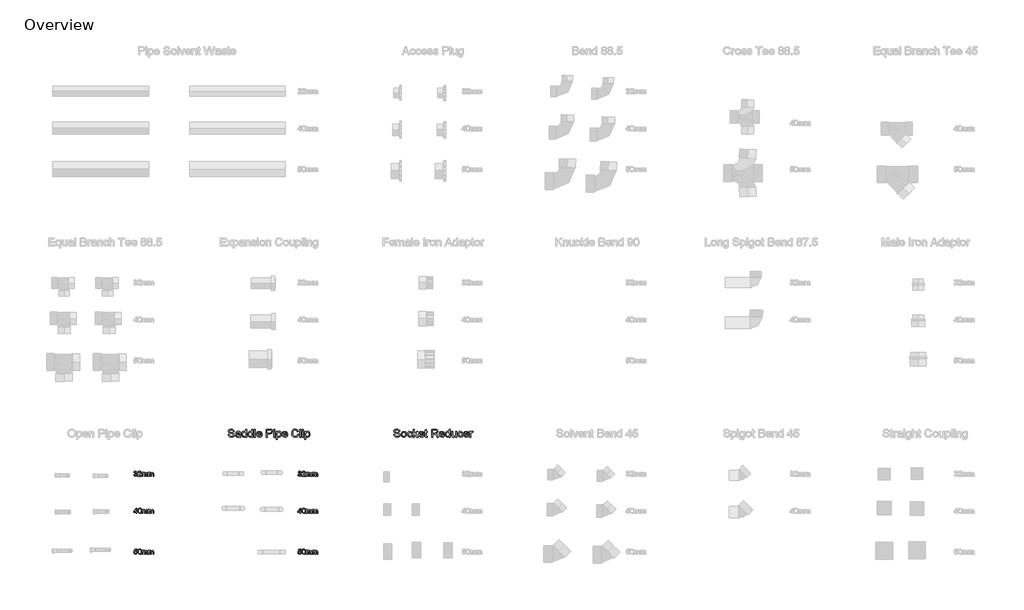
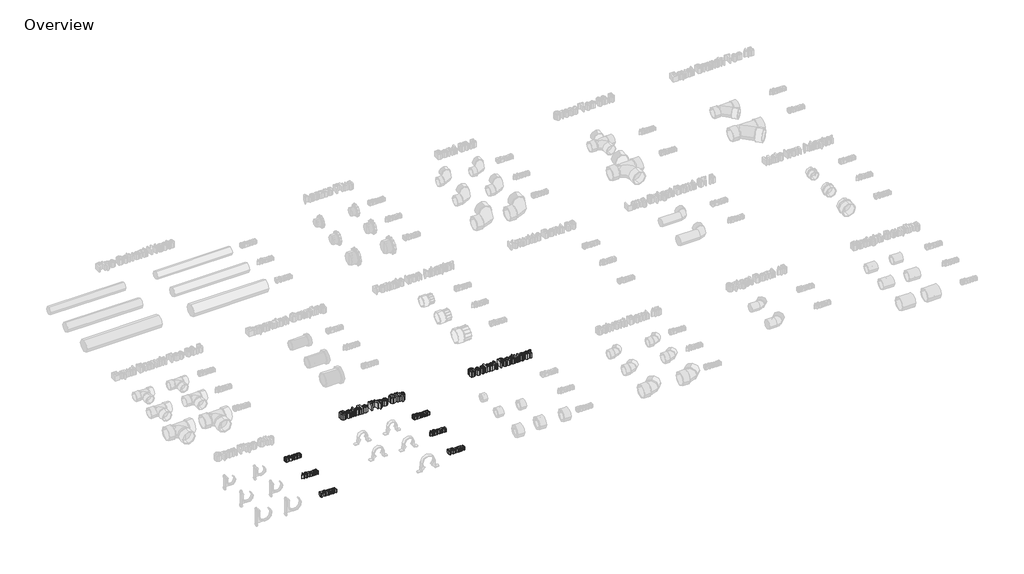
# One storey, part 2 of 10: 8 proxies.
"""IFC4 building model written with IfcOpenShell, lengths in millimetres."""

from ifc_helpers import new_model, si_unit, origin, origin_with_axes, place, context, project, spatial, polyline, outline, extrude, element, save

model = new_model("IFC4")

# Units and contexts
model_context = context("Model", 3, world=origin())
ifc_project = project(units=[si_unit("LENGTHUNIT", "METRE", prefix="MILLI")], contexts=[model_context])

# Site, building, storey
site = spatial("IfcSite", under=ifc_project)
building = spatial("IfcBuilding", under=site)
storey = spatial("IfcBuildingStorey", under=building, Name="Overview", Elevation=0.0)

# Proxies
placement = place(None, origin())
element("IfcBuildingElementProxy", 1, Name="20mm Arial", ObjectType="20mm Arial", at=placement, inside=storey, context=model_context, shape_type="SweptSolid", body=[
    extrude(outline(polyline([(-2898.2349117, 3721.4652453), (-2895.7733732, 3721.7729376), (-2894.4152001, 3719.1815914), (-2891.8743347, 3718.3883222), (-2888.8839501, 3719.4796684), (-2887.7733732, 3722.1815914), (-2888.8743347, 3724.7272645), (-2891.6724117, 3725.7344761), (-2893.3983732, 3725.4652453), (-2893.1243347, 3727.9267837), (-2889.9368347, 3728.6046684), (-2888.6964501, 3730.7777453), (-2889.5954886, 3732.7032261), (-2891.9127963, 3733.4652453), (-2894.2589501, 3732.6960145), (-2895.4656809, 3730.3883222), (-2897.9272194, 3730.6960145), (-2895.9127963, 3734.5565914), (-2891.9993347, 3735.9267837), (-2889.0305847, 3735.251303), (-2886.9536617, 3733.4051491), (-2886.2349117, 3730.9219761), (-2886.917604, 3728.6527453), (-2888.9368347, 3727.0229376), (-2886.2541424, 3725.3402453), (-2885.3118347, 3722.1383222), (-2887.1964501, 3717.7344761), (-2891.9608732, 3715.9267837), (-2896.2781809, 3717.470053), (-2898.2349117, 3721.4652453)])), origin_with_axes(), (0.0, 0.0, 1.0), 15.0),
    extrude(outline(polyline([(-2870.542604, 3718.6960145), (-2870.542604, 3716.2344761), (-2883.4656809, 3716.2344761), (-2883.2012578, 3717.9315914), (-2881.7060655, 3720.5445722), (-2878.6243347, 3723.3979376), (-2874.3743347, 3727.4988991), (-2873.3118347, 3730.2873607), (-2874.3142386, 3732.5445722), (-2876.9320271, 3733.4652453), (-2879.6603924, 3732.5662068), (-2880.6964501, 3730.0806299), (-2883.1579886, 3730.3883222), (-2881.2709694, 3734.5085145), (-2876.8791424, 3735.9267837), (-2872.4728924, 3734.3498607), (-2870.8502963, 3730.4363991), (-2871.2877963, 3728.1022645), (-2872.7421232, 3725.688803), (-2876.2685655, 3722.3162068), (-2879.1002963, 3719.9484184), (-2880.2108732, 3718.6960145), (-2870.542604, 3718.6960145)])), origin_with_axes(), (0.0, 0.0, 1.0), 15.0),
    extrude(outline(polyline([(-2867.4656809, 3716.2344761), (-2867.4656809, 3730.6960145), (-2865.0041424, 3730.6960145), (-2865.0041424, 3728.3162068), (-2863.3118347, 3730.2657261), (-2860.9031809, 3731.0037068), (-2858.4368347, 3730.251303), (-2857.0810655, 3728.1431299), (-2852.7349117, 3731.0037068), (-2849.5161617, 3729.813803), (-2848.3887578, 3726.1479376), (-2848.3887578, 3716.2344761), (-2850.8502963, 3716.2344761), (-2850.8502963, 3725.0902453), (-2851.0786617, 3727.1455337), (-2855.7325078, 3727.5565914), (-2856.6964501, 3724.3979376), (-2856.6964501, 3716.2344761), (-2859.1579886, 3716.2344761), (-2859.1579886, 3725.3642837), (-2859.7277001, 3727.7488991), (-2861.5954886, 3728.5421684), (-2863.417604, 3728.0133222), (-2864.6291424, 3726.4652453), (-2865.0041424, 3723.5277453), (-2865.0041424, 3716.2344761), (-2867.4656809, 3716.2344761)])), origin_with_axes(), (0.0, 0.0, 1.0), 15.0),
    extrude(outline(polyline([(-2844.6964501, 3716.2344761), (-2844.6964501, 3730.6960145), (-2842.2349117, 3730.6960145), (-2842.2349117, 3728.3162068), (-2840.542604, 3730.2657261), (-2838.1339501, 3731.0037068), (-2835.667604, 3730.251303), (-2834.3118347, 3728.1431299), (-2829.9656809, 3731.0037068), (-2826.7469309, 3729.813803), (-2825.6195271, 3726.1479376), (-2825.6195271, 3716.2344761), (-2828.0810655, 3716.2344761), (-2828.0810655, 3725.0902453), (-2828.3094309, 3727.1455337), (-2832.9632771, 3727.5565914), (-2833.9272194, 3724.3979376), (-2833.9272194, 3716.2344761), (-2836.3887578, 3716.2344761), (-2836.3887578, 3725.3642837), (-2836.9584694, 3727.7488991), (-2838.8262578, 3728.5421684), (-2840.6483732, 3728.0133222), (-2841.8599117, 3726.4652453), (-2842.2349117, 3723.5277453), (-2842.2349117, 3716.2344761), (-2844.6964501, 3716.2344761)])), origin_with_axes(), (0.0, 0.0, 1.0), 15.0),
])
element("IfcBuildingElementProxy", 2, Name="20mm Arial", ObjectType="20mm Arial", at=placement, inside=storey, context=model_context, shape_type="SweptSolid", body=[
    extrude(outline(polyline([(-2890.2349117, 3580.5685355), (-2890.2349117, 3585.1839201), (-2899.1579886, 3585.1839201), (-2899.1579886, 3587.6454586), (-2889.6195271, 3599.9531509), (-2887.7733732, 3599.9531509), (-2887.7733732, 3587.6454586), (-2885.3118347, 3587.6454586), (-2885.3118347, 3585.1839201), (-2887.7733732, 3585.1839201), (-2887.7733732, 3580.5685355), (-2890.2349117, 3580.5685355)]), holes=[polyline([(-2890.2349117, 3587.6454586), (-2890.2349117, 3595.2512278), (-2896.1291424, 3587.6454586), (-2890.2349117, 3587.6454586)])]), origin_with_axes(), (0.0, 0.0, 1.0), 15.0),
    extrude(outline(polyline([(-2883.1579886, 3590.2560355), (-2882.4344309, 3595.9219009), (-2880.2853924, 3599.1887278), (-2876.6964501, 3600.2608432), (-2873.8214501, 3599.6262278), (-2871.8358732, 3597.7969009), (-2870.6820271, 3594.8834393), (-2870.2349117, 3590.2560355), (-2870.9512578, 3584.6142086), (-2873.0930847, 3581.3401701), (-2876.6964501, 3580.2608432), (-2881.1964501, 3582.1358432), (-2883.1579886, 3590.2560355)]), holes=[polyline([(-2880.6964501, 3590.2608432), (-2879.542604, 3584.1478624), (-2876.6964501, 3582.7223816), (-2873.8502963, 3584.1526701), (-2872.6964501, 3590.2608432), (-2873.8118347, 3596.3041124), (-2876.7252963, 3597.7993047), (-2879.5041424, 3596.481997), (-2880.6964501, 3590.2608432)])]), origin_with_axes(), (0.0, 0.0, 1.0), 15.0),
    extrude(outline(polyline([(-2867.4656809, 3580.5685355), (-2867.4656809, 3595.030074), (-2865.0041424, 3595.030074), (-2865.0041424, 3592.6502663), (-2863.3118347, 3594.5997855), (-2860.9031809, 3595.3377663), (-2858.4368347, 3594.5853624), (-2857.0810655, 3592.4771893), (-2852.7349117, 3595.3377663), (-2849.5161617, 3594.1478624), (-2848.3887578, 3590.481997), (-2848.3887578, 3580.5685355), (-2850.8502963, 3580.5685355), (-2850.8502963, 3589.4243047), (-2851.0786617, 3591.4795932), (-2855.7325078, 3591.8906509), (-2856.6964501, 3588.731997), (-2856.6964501, 3580.5685355), (-2859.1579886, 3580.5685355), (-2859.1579886, 3589.6983432), (-2859.7277001, 3592.0829586), (-2861.5954886, 3592.8762278), (-2863.417604, 3592.3473816), (-2864.6291424, 3590.7993047), (-2865.0041424, 3587.8618047), (-2865.0041424, 3580.5685355), (-2867.4656809, 3580.5685355)])), origin_with_axes(), (0.0, 0.0, 1.0), 15.0),
    extrude(outline(polyline([(-2844.6964501, 3580.5685355), (-2844.6964501, 3595.030074), (-2842.2349117, 3595.030074), (-2842.2349117, 3592.6502663), (-2840.542604, 3594.5997855), (-2838.1339501, 3595.3377663), (-2835.667604, 3594.5853624), (-2834.3118347, 3592.4771893), (-2829.9656809, 3595.3377663), (-2826.7469309, 3594.1478624), (-2825.6195271, 3590.481997), (-2825.6195271, 3580.5685355), (-2828.0810655, 3580.5685355), (-2828.0810655, 3589.4243047), (-2828.3094309, 3591.4795932), (-2832.9632771, 3591.8906509), (-2833.9272194, 3588.731997), (-2833.9272194, 3580.5685355), (-2836.3887578, 3580.5685355), (-2836.3887578, 3589.6983432), (-2836.9584694, 3592.0829586), (-2838.8262578, 3592.8762278), (-2840.6483732, 3592.3473816), (-2841.8599117, 3590.7993047), (-2842.2349117, 3587.8618047), (-2842.2349117, 3580.5685355), (-2844.6964501, 3580.5685355)])), origin_with_axes(), (0.0, 0.0, 1.0), 15.0),
])
element("IfcBuildingElementProxy", 3, Name="20mm Arial", ObjectType="20mm Arial", at=placement, inside=storey, context=model_context, shape_type="SweptSolid", body=[
    extrude(outline(polyline([(-2898.2349117, 3436.1445961), (-2895.7733732, 3436.4522884), (-2894.5329886, 3433.9162307), (-2891.9608732, 3433.067673), (-2888.8743347, 3434.2479615), (-2887.7733732, 3437.380173), (-2888.8046232, 3440.3032499), (-2891.9224117, 3441.3753653), (-2894.0834694, 3440.9474807), (-2895.4656809, 3439.8369038), (-2897.9272194, 3440.1445961), (-2895.7733732, 3450.2984422), (-2886.2349117, 3450.2984422), (-2886.2349117, 3447.8369038), (-2893.7829886, 3447.8369038), (-2894.8358732, 3442.4138269), (-2891.2349117, 3443.8369038), (-2887.0257771, 3442.0724807), (-2885.3118347, 3437.5340192), (-2886.855104, 3432.9667115), (-2891.9704886, 3430.6061346), (-2896.3142386, 3432.1229615), (-2898.2349117, 3436.1445961)])), origin_with_axes(), (0.0, 0.0, 1.0), 15.0),
    extrude(outline(polyline([(-2883.1579886, 3440.6013269), (-2882.4344309, 3446.2671922), (-2880.2853924, 3449.5340192), (-2876.6964501, 3450.6061346), (-2873.8214501, 3449.9715192), (-2871.8358732, 3448.1421922), (-2870.6820271, 3445.2287307), (-2870.2349117, 3440.6013269), (-2870.9512578, 3434.9594999), (-2873.0930847, 3431.6854615), (-2876.6964501, 3430.6061346), (-2881.1964501, 3432.4811346), (-2883.1579886, 3440.6013269)]), holes=[polyline([(-2880.6964501, 3440.6061346), (-2879.542604, 3434.4931538), (-2876.6964501, 3433.067673), (-2873.8502963, 3434.4979615), (-2872.6964501, 3440.6061346), (-2873.8118347, 3446.6494038), (-2876.7252963, 3448.1445961), (-2879.5041424, 3446.8272884), (-2880.6964501, 3440.6061346)])]), origin_with_axes(), (0.0, 0.0, 1.0), 15.0),
    extrude(outline(polyline([(-2867.4656809, 3430.9138269), (-2867.4656809, 3445.3753653), (-2865.0041424, 3445.3753653), (-2865.0041424, 3442.9955576), (-2863.3118347, 3444.9450769), (-2860.9031809, 3445.6830576), (-2858.4368347, 3444.9306538), (-2857.0810655, 3442.8224807), (-2852.7349117, 3445.6830576), (-2849.5161617, 3444.4931538), (-2848.3887578, 3440.8272884), (-2848.3887578, 3430.9138269), (-2850.8502963, 3430.9138269), (-2850.8502963, 3439.7695961), (-2851.0786617, 3441.8248846), (-2855.7325078, 3442.2359422), (-2856.6964501, 3439.0772884), (-2856.6964501, 3430.9138269), (-2859.1579886, 3430.9138269), (-2859.1579886, 3440.0436346), (-2859.7277001, 3442.4282499), (-2861.5954886, 3443.2215192), (-2863.417604, 3442.692673), (-2864.6291424, 3441.1445961), (-2865.0041424, 3438.2070961), (-2865.0041424, 3430.9138269), (-2867.4656809, 3430.9138269)])), origin_with_axes(), (0.0, 0.0, 1.0), 15.0),
    extrude(outline(polyline([(-2844.6964501, 3430.9138269), (-2844.6964501, 3445.3753653), (-2842.2349117, 3445.3753653), (-2842.2349117, 3442.9955576), (-2840.542604, 3444.9450769), (-2838.1339501, 3445.6830576), (-2835.667604, 3444.9306538), (-2834.3118347, 3442.8224807), (-2829.9656809, 3445.6830576), (-2826.7469309, 3444.4931538), (-2825.6195271, 3440.8272884), (-2825.6195271, 3430.9138269), (-2828.0810655, 3430.9138269), (-2828.0810655, 3439.7695961), (-2828.3094309, 3441.8248846), (-2832.9632771, 3442.2359422), (-2833.9272194, 3439.0772884), (-2833.9272194, 3430.9138269), (-2836.3887578, 3430.9138269), (-2836.3887578, 3440.0436346), (-2836.9584694, 3442.4282499), (-2838.8262578, 3443.2215192), (-2840.6483732, 3442.692673), (-2841.8599117, 3441.1445961), (-2842.2349117, 3438.2070961), (-2842.2349117, 3430.9138269), (-2844.6964501, 3430.9138269)])), origin_with_axes(), (0.0, 0.0, 1.0), 15.0),
])
element("IfcBuildingElementProxy", 4, Name="20mm Arial", ObjectType="20mm Arial", at=placement, inside=storey, context=model_context, shape_type="SweptSolid", body=[
    extrude(outline(polyline([(-2298.2349117, 3721.4652453), (-2295.7733732, 3721.7729376), (-2294.4152001, 3719.1815914), (-2291.8743347, 3718.3883222), (-2288.8839501, 3719.4796684), (-2287.7733732, 3722.1815914), (-2288.8743347, 3724.7272645), (-2291.6724117, 3725.7344761), (-2293.3983732, 3725.4652453), (-2293.1243347, 3727.9267837), (-2289.9368347, 3728.6046684), (-2288.6964501, 3730.7777453), (-2289.5954886, 3732.7032261), (-2291.9127963, 3733.4652453), (-2294.2589501, 3732.6960145), (-2295.4656809, 3730.3883222), (-2297.9272194, 3730.6960145), (-2295.9127963, 3734.5565914), (-2291.9993347, 3735.9267837), (-2289.0305847, 3735.251303), (-2286.9536617, 3733.4051491), (-2286.2349117, 3730.9219761), (-2286.917604, 3728.6527453), (-2288.9368347, 3727.0229376), (-2286.2541424, 3725.3402453), (-2285.3118347, 3722.1383222), (-2287.1964501, 3717.7344761), (-2291.9608732, 3715.9267837), (-2296.2781809, 3717.470053), (-2298.2349117, 3721.4652453)])), origin_with_axes(), (0.0, 0.0, 1.0), 15.0),
    extrude(outline(polyline([(-2270.542604, 3718.6960145), (-2270.542604, 3716.2344761), (-2283.4656809, 3716.2344761), (-2283.2012578, 3717.9315914), (-2281.7060655, 3720.5445722), (-2278.6243347, 3723.3979376), (-2274.3743347, 3727.4988991), (-2273.3118347, 3730.2873607), (-2274.3142386, 3732.5445722), (-2276.9320271, 3733.4652453), (-2279.6603924, 3732.5662068), (-2280.6964501, 3730.0806299), (-2283.1579886, 3730.3883222), (-2281.2709694, 3734.5085145), (-2276.8791424, 3735.9267837), (-2272.4728924, 3734.3498607), (-2270.8502963, 3730.4363991), (-2271.2877963, 3728.1022645), (-2272.7421232, 3725.688803), (-2276.2685655, 3722.3162068), (-2279.1002963, 3719.9484184), (-2280.2108732, 3718.6960145), (-2270.542604, 3718.6960145)])), origin_with_axes(), (0.0, 0.0, 1.0), 15.0),
    extrude(outline(polyline([(-2267.4656809, 3716.2344761), (-2267.4656809, 3730.6960145), (-2265.0041424, 3730.6960145), (-2265.0041424, 3728.3162068), (-2263.3118347, 3730.2657261), (-2260.9031809, 3731.0037068), (-2258.4368347, 3730.251303), (-2257.0810655, 3728.1431299), (-2252.7349117, 3731.0037068), (-2249.5161617, 3729.813803), (-2248.3887578, 3726.1479376), (-2248.3887578, 3716.2344761), (-2250.8502963, 3716.2344761), (-2250.8502963, 3725.0902453), (-2251.0786617, 3727.1455337), (-2255.7325078, 3727.5565914), (-2256.6964501, 3724.3979376), (-2256.6964501, 3716.2344761), (-2259.1579886, 3716.2344761), (-2259.1579886, 3725.3642837), (-2259.7277001, 3727.7488991), (-2261.5954886, 3728.5421684), (-2263.417604, 3728.0133222), (-2264.6291424, 3726.4652453), (-2265.0041424, 3723.5277453), (-2265.0041424, 3716.2344761), (-2267.4656809, 3716.2344761)])), origin_with_axes(), (0.0, 0.0, 1.0), 15.0),
    extrude(outline(polyline([(-2244.6964501, 3716.2344761), (-2244.6964501, 3730.6960145), (-2242.2349117, 3730.6960145), (-2242.2349117, 3728.3162068), (-2240.542604, 3730.2657261), (-2238.1339501, 3731.0037068), (-2235.667604, 3730.251303), (-2234.3118347, 3728.1431299), (-2229.9656809, 3731.0037068), (-2226.7469309, 3729.813803), (-2225.6195271, 3726.1479376), (-2225.6195271, 3716.2344761), (-2228.0810655, 3716.2344761), (-2228.0810655, 3725.0902453), (-2228.3094309, 3727.1455337), (-2232.9632771, 3727.5565914), (-2233.9272194, 3724.3979376), (-2233.9272194, 3716.2344761), (-2236.3887578, 3716.2344761), (-2236.3887578, 3725.3642837), (-2236.9584694, 3727.7488991), (-2238.8262578, 3728.5421684), (-2240.6483732, 3728.0133222), (-2241.8599117, 3726.4652453), (-2242.2349117, 3723.5277453), (-2242.2349117, 3716.2344761), (-2244.6964501, 3716.2344761)])), origin_with_axes(), (0.0, 0.0, 1.0), 15.0),
])
element("IfcBuildingElementProxy", 5, Name="20mm Arial", ObjectType="20mm Arial", at=placement, inside=storey, context=model_context, shape_type="SweptSolid", body=[
    extrude(outline(polyline([(-2290.2349117, 3580.5685355), (-2290.2349117, 3585.1839201), (-2299.1579886, 3585.1839201), (-2299.1579886, 3587.6454586), (-2289.6195271, 3599.9531509), (-2287.7733732, 3599.9531509), (-2287.7733732, 3587.6454586), (-2285.3118347, 3587.6454586), (-2285.3118347, 3585.1839201), (-2287.7733732, 3585.1839201), (-2287.7733732, 3580.5685355), (-2290.2349117, 3580.5685355)]), holes=[polyline([(-2290.2349117, 3587.6454586), (-2290.2349117, 3595.2512278), (-2296.1291424, 3587.6454586), (-2290.2349117, 3587.6454586)])]), origin_with_axes(), (0.0, 0.0, 1.0), 15.0),
    extrude(outline(polyline([(-2283.1579886, 3590.2560355), (-2282.4344309, 3595.9219009), (-2280.2853924, 3599.1887278), (-2276.6964501, 3600.2608432), (-2273.8214501, 3599.6262278), (-2271.8358732, 3597.7969009), (-2270.6820271, 3594.8834393), (-2270.2349117, 3590.2560355), (-2270.9512578, 3584.6142086), (-2273.0930847, 3581.3401701), (-2276.6964501, 3580.2608432), (-2281.1964501, 3582.1358432), (-2283.1579886, 3590.2560355)]), holes=[polyline([(-2280.6964501, 3590.2608432), (-2279.542604, 3584.1478624), (-2276.6964501, 3582.7223816), (-2273.8502963, 3584.1526701), (-2272.6964501, 3590.2608432), (-2273.8118347, 3596.3041124), (-2276.7252963, 3597.7993047), (-2279.5041424, 3596.481997), (-2280.6964501, 3590.2608432)])]), origin_with_axes(), (0.0, 0.0, 1.0), 15.0),
    extrude(outline(polyline([(-2267.4656809, 3580.5685355), (-2267.4656809, 3595.030074), (-2265.0041424, 3595.030074), (-2265.0041424, 3592.6502663), (-2263.3118347, 3594.5997855), (-2260.9031809, 3595.3377663), (-2258.4368347, 3594.5853624), (-2257.0810655, 3592.4771893), (-2252.7349117, 3595.3377663), (-2249.5161617, 3594.1478624), (-2248.3887578, 3590.481997), (-2248.3887578, 3580.5685355), (-2250.8502963, 3580.5685355), (-2250.8502963, 3589.4243047), (-2251.0786617, 3591.4795932), (-2255.7325078, 3591.8906509), (-2256.6964501, 3588.731997), (-2256.6964501, 3580.5685355), (-2259.1579886, 3580.5685355), (-2259.1579886, 3589.6983432), (-2259.7277001, 3592.0829586), (-2261.5954886, 3592.8762278), (-2263.417604, 3592.3473816), (-2264.6291424, 3590.7993047), (-2265.0041424, 3587.8618047), (-2265.0041424, 3580.5685355), (-2267.4656809, 3580.5685355)])), origin_with_axes(), (0.0, 0.0, 1.0), 15.0),
    extrude(outline(polyline([(-2244.6964501, 3580.5685355), (-2244.6964501, 3595.030074), (-2242.2349117, 3595.030074), (-2242.2349117, 3592.6502663), (-2240.542604, 3594.5997855), (-2238.1339501, 3595.3377663), (-2235.667604, 3594.5853624), (-2234.3118347, 3592.4771893), (-2229.9656809, 3595.3377663), (-2226.7469309, 3594.1478624), (-2225.6195271, 3590.481997), (-2225.6195271, 3580.5685355), (-2228.0810655, 3580.5685355), (-2228.0810655, 3589.4243047), (-2228.3094309, 3591.4795932), (-2232.9632771, 3591.8906509), (-2233.9272194, 3588.731997), (-2233.9272194, 3580.5685355), (-2236.3887578, 3580.5685355), (-2236.3887578, 3589.6983432), (-2236.9584694, 3592.0829586), (-2238.8262578, 3592.8762278), (-2240.6483732, 3592.3473816), (-2241.8599117, 3590.7993047), (-2242.2349117, 3587.8618047), (-2242.2349117, 3580.5685355), (-2244.6964501, 3580.5685355)])), origin_with_axes(), (0.0, 0.0, 1.0), 15.0),
])
element("IfcBuildingElementProxy", 6, Name="20mm Arial", ObjectType="20mm Arial", at=placement, inside=storey, context=model_context, shape_type="SweptSolid", body=[
    extrude(outline(polyline([(-2298.2349117, 3436.1445961), (-2295.7733732, 3436.4522884), (-2294.5329886, 3433.9162307), (-2291.9608732, 3433.067673), (-2288.8743347, 3434.2479615), (-2287.7733732, 3437.380173), (-2288.8046232, 3440.3032499), (-2291.9224117, 3441.3753653), (-2294.0834694, 3440.9474807), (-2295.4656809, 3439.8369038), (-2297.9272194, 3440.1445961), (-2295.7733732, 3450.2984422), (-2286.2349117, 3450.2984422), (-2286.2349117, 3447.8369038), (-2293.7829886, 3447.8369038), (-2294.8358732, 3442.4138269), (-2291.2349117, 3443.8369038), (-2287.0257771, 3442.0724807), (-2285.3118347, 3437.5340192), (-2286.855104, 3432.9667115), (-2291.9704886, 3430.6061346), (-2296.3142386, 3432.1229615), (-2298.2349117, 3436.1445961)])), origin_with_axes(), (0.0, 0.0, 1.0), 15.0),
    extrude(outline(polyline([(-2283.1579886, 3440.6013269), (-2282.4344309, 3446.2671922), (-2280.2853924, 3449.5340192), (-2276.6964501, 3450.6061346), (-2273.8214501, 3449.9715192), (-2271.8358732, 3448.1421922), (-2270.6820271, 3445.2287307), (-2270.2349117, 3440.6013269), (-2270.9512578, 3434.9594999), (-2273.0930847, 3431.6854615), (-2276.6964501, 3430.6061346), (-2281.1964501, 3432.4811346), (-2283.1579886, 3440.6013269)]), holes=[polyline([(-2280.6964501, 3440.6061346), (-2279.542604, 3434.4931538), (-2276.6964501, 3433.067673), (-2273.8502963, 3434.4979615), (-2272.6964501, 3440.6061346), (-2273.8118347, 3446.6494038), (-2276.7252963, 3448.1445961), (-2279.5041424, 3446.8272884), (-2280.6964501, 3440.6061346)])]), origin_with_axes(), (0.0, 0.0, 1.0), 15.0),
    extrude(outline(polyline([(-2267.4656809, 3430.9138269), (-2267.4656809, 3445.3753653), (-2265.0041424, 3445.3753653), (-2265.0041424, 3442.9955576), (-2263.3118347, 3444.9450769), (-2260.9031809, 3445.6830576), (-2258.4368347, 3444.9306538), (-2257.0810655, 3442.8224807), (-2252.7349117, 3445.6830576), (-2249.5161617, 3444.4931538), (-2248.3887578, 3440.8272884), (-2248.3887578, 3430.9138269), (-2250.8502963, 3430.9138269), (-2250.8502963, 3439.7695961), (-2251.0786617, 3441.8248846), (-2255.7325078, 3442.2359422), (-2256.6964501, 3439.0772884), (-2256.6964501, 3430.9138269), (-2259.1579886, 3430.9138269), (-2259.1579886, 3440.0436346), (-2259.7277001, 3442.4282499), (-2261.5954886, 3443.2215192), (-2263.417604, 3442.692673), (-2264.6291424, 3441.1445961), (-2265.0041424, 3438.2070961), (-2265.0041424, 3430.9138269), (-2267.4656809, 3430.9138269)])), origin_with_axes(), (0.0, 0.0, 1.0), 15.0),
    extrude(outline(polyline([(-2244.6964501, 3430.9138269), (-2244.6964501, 3445.3753653), (-2242.2349117, 3445.3753653), (-2242.2349117, 3442.9955576), (-2240.542604, 3444.9450769), (-2238.1339501, 3445.6830576), (-2235.667604, 3444.9306538), (-2234.3118347, 3442.8224807), (-2229.9656809, 3445.6830576), (-2226.7469309, 3444.4931538), (-2225.6195271, 3440.8272884), (-2225.6195271, 3430.9138269), (-2228.0810655, 3430.9138269), (-2228.0810655, 3439.7695961), (-2228.3094309, 3441.8248846), (-2232.9632771, 3442.2359422), (-2233.9272194, 3439.0772884), (-2233.9272194, 3430.9138269), (-2236.3887578, 3430.9138269), (-2236.3887578, 3440.0436346), (-2236.9584694, 3442.4282499), (-2238.8262578, 3443.2215192), (-2240.6483732, 3442.692673), (-2241.8599117, 3441.1445961), (-2242.2349117, 3438.2070961), (-2242.2349117, 3430.9138269), (-2244.6964501, 3430.9138269)])), origin_with_axes(), (0.0, 0.0, 1.0), 15.0),
])
element("IfcBuildingElementProxy", 7, Name="600mm Arial", ObjectType="600mm Arial", at=placement, inside=storey, context=model_context, shape_type="SweptSolid", body=[
    extrude(outline(polyline([(-2553.2231242, 3869.7251615), (-2549.5308165, 3869.7251615), (-2548.3409126, 3866.0292481), (-2545.4346626, 3863.6927096), (-2541.006778, 3862.8020846), (-2537.1486049, 3863.4763635), (-2534.6570184, 3865.3297288), (-2533.8385088, 3867.8068923), (-2534.4514896, 3870.1109788), (-2536.9611049, 3871.7876615), (-2542.3373069, 3873.1975173), (-2548.1245665, 3875.0184308), (-2551.2651915, 3877.7660269), (-2552.3000472, 3881.4367), (-2551.0199992, 3885.6157865), (-2547.2808165, 3888.5653058), (-2541.8072588, 3889.5713154), (-2535.9659126, 3888.5184308), (-2532.0716819, 3885.4246808), (-2530.6077396, 3880.8020846), (-2534.3000472, 3880.8020846), (-2536.3913934, 3884.5953538), (-2541.663028, 3885.8790077), (-2546.9490857, 3884.6097769), (-2548.6077396, 3881.5448731), (-2547.4322588, 3878.9847769), (-2541.4034126, 3876.9222769), (-2534.8697588, 3875.0689115), (-2531.2964415, 3872.0761231), (-2530.1462011, 3867.9006423), (-2531.4695184, 3863.483575), (-2535.2772107, 3860.2600173), (-2540.8625472, 3859.1097769), (-2547.4574992, 3860.3501615), (-2551.6293742, 3864.0857385), (-2553.2231242, 3869.7251615)])), origin_with_axes(), (0.0, 0.0, 1.0), 25.0),
    extrude(outline(polyline([(-2511.2231242, 3862.3405462), (-2514.803653, 3859.8381423), (-2518.7591819, 3859.1097769), (-2524.1209607, 3860.8621808), (-2525.9923549, 3865.3405462), (-2525.2856242, 3868.2612192), (-2523.428653, 3870.3814115), (-2520.8433165, 3871.59295), (-2517.6486049, 3872.1482385), (-2511.2447588, 3873.4174692), (-2512.2399511, 3876.9655462), (-2516.3216819, 3878.0328538), (-2520.0572588, 3877.3225173), (-2521.8385088, 3874.8020846), (-2525.5308165, 3875.2636231), (-2523.9334607, 3878.8693923), (-2520.7171146, 3880.9823731), (-2515.8457203, 3881.7251615), (-2511.3709607, 3881.0689115), (-2508.8433165, 3879.421075), (-2507.7111049, 3876.9150654), (-2507.5308165, 3873.6842962), (-2507.5308165, 3869.0905462), (-2507.3433165, 3862.6758827), (-2506.6077396, 3859.5713154), (-2510.3000472, 3859.5713154), (-2511.2231242, 3862.3405462)]), holes=[polyline([(-2511.2339415, 3869.202325), (-2517.1798549, 3868.59295), (-2520.3565376, 3867.9943923), (-2521.7952396, 3867.0208346), (-2521.2002876, 3863.6025654), (-2517.9731242, 3862.8020846), (-2514.2375472, 3863.6854981), (-2511.8288934, 3865.8237192), (-2511.2339415, 3869.202325)])]), origin_with_axes(), (0.0, 0.0, 1.0), 25.0),
    extrude(outline(polyline([(-2489.069278, 3859.5713154), (-2489.069278, 3863.0544885), (-2494.8889896, 3859.1097769), (-2499.4611049, 3860.5376615), (-2502.6918742, 3864.5220365), (-2503.8385088, 3870.3958346), (-2502.7820184, 3876.2732385), (-2499.616153, 3880.3189115), (-2494.9034126, 3881.7251615), (-2491.4995665, 3880.7191519), (-2489.069278, 3878.1049692), (-2489.069278, 3889.1097769), (-2485.3769703, 3889.1097769), (-2485.3769703, 3859.5713154), (-2489.069278, 3859.5713154)]), holes=[polyline([(-2500.1462011, 3870.4102577), (-2498.4803357, 3864.6951135), (-2494.5500472, 3862.8020846), (-2490.6666338, 3864.608575), (-2489.069278, 3870.1290077), (-2490.6954799, 3876.1217962), (-2494.7014896, 3878.0328538), (-2498.5885088, 3876.1975173), (-2500.1462011, 3870.4102577)])]), origin_with_axes(), (0.0, 0.0, 1.0), 25.0),
    extrude(outline(polyline([(-2466.4538934, 3859.5713154), (-2466.4538934, 3863.0544885), (-2472.2736049, 3859.1097769), (-2476.8457203, 3860.5376615), (-2480.0764896, 3864.5220365), (-2481.2231242, 3870.3958346), (-2480.1666338, 3876.2732385), (-2477.0007684, 3880.3189115), (-2472.288028, 3881.7251615), (-2468.8841819, 3880.7191519), (-2466.4538934, 3878.1049692), (-2466.4538934, 3889.1097769), (-2462.7615857, 3889.1097769), (-2462.7615857, 3859.5713154), (-2466.4538934, 3859.5713154)]), holes=[polyline([(-2477.5308165, 3870.4102577), (-2475.8649511, 3864.6951135), (-2471.9346626, 3862.8020846), (-2468.0512492, 3864.608575), (-2466.4538934, 3870.1290077), (-2468.0800953, 3876.1217962), (-2472.0861049, 3878.0328538), (-2475.9731242, 3876.1975173), (-2477.5308165, 3870.4102577)])]), origin_with_axes(), (0.0, 0.0, 1.0), 25.0),
    extrude(outline(polyline([(-2457.2231242, 3859.5713154), (-2457.2231242, 3889.1097769), (-2453.5308165, 3889.1097769), (-2453.5308165, 3859.5713154), (-2457.2231242, 3859.5713154)])), origin_with_axes(), (0.0, 0.0, 1.0), 25.0),
    extrude(outline(polyline([(-2432.8048549, 3866.0328538), (-2429.1846626, 3865.5713154), (-2432.5704799, 3860.8044885), (-2438.8769703, 3859.1097769), (-2446.5428357, 3862.0340558), (-2449.3769703, 3870.2371808), (-2446.5139896, 3878.7107385), (-2439.0861049, 3881.7251615), (-2431.8709607, 3878.71795), (-2429.069278, 3870.2588154), (-2445.6846626, 3869.2636231), (-2443.5608646, 3864.46795), (-2438.8048549, 3862.8020846), (-2435.1846626, 3863.5737192), (-2432.8048549, 3866.0328538)]), holes=[polyline([(-2445.6846626, 3872.9559308), (-2432.7615857, 3872.9559308), (-2434.2399511, 3876.3020846), (-2439.100528, 3878.0328538), (-2443.647403, 3876.6518442), (-2445.6846626, 3872.9559308)])]), origin_with_axes(), (0.0, 0.0, 1.0), 25.0),
    extrude(outline(polyline([(-2413.3769703, 3859.5713154), (-2413.3769703, 3889.1097769), (-2402.4298549, 3889.1097769), (-2398.0163934, 3888.8285269), (-2394.428653, 3887.4475173), (-2392.1029319, 3884.5917481), (-2391.2231242, 3880.5641038), (-2393.5993261, 3874.1818923), (-2402.1774511, 3871.5713154), (-2409.6846626, 3871.5713154), (-2409.6846626, 3859.5713154), (-2413.3769703, 3859.5713154)]), holes=[polyline([(-2409.6846626, 3875.2636231), (-2401.9611049, 3875.2636231), (-2396.5236049, 3876.6193923), (-2394.9154319, 3880.4342962), (-2395.8637492, 3883.4919885), (-2398.3553357, 3885.1650654), (-2402.0476434, 3885.4174692), (-2409.6846626, 3885.4174692), (-2409.6846626, 3875.2636231)])]), origin_with_axes(), (0.0, 0.0, 1.0), 25.0),
    extrude(outline(polyline([(-2386.6077396, 3859.5713154), (-2386.6077396, 3881.2636231), (-2382.9154319, 3881.2636231), (-2382.9154319, 3859.5713154), (-2386.6077396, 3859.5713154)])), origin_with_axes(), (0.0, 0.0, 1.0), 25.0),
    extrude(outline(polyline([(-2386.6077396, 3885.4174692), (-2386.6077396, 3889.1097769), (-2382.9154319, 3889.1097769), (-2382.9154319, 3885.4174692), (-2386.6077396, 3885.4174692)])), origin_with_axes(), (0.0, 0.0, 1.0), 25.0),
    extrude(outline(polyline([(-2377.3769703, 3851.2636231), (-2377.3769703, 3881.2636231), (-2373.6846626, 3881.2636231), (-2373.6846626, 3877.6434308), (-2371.131778, 3880.7047288), (-2367.6846626, 3881.7251615), (-2363.0043742, 3880.2972769), (-2359.9466819, 3876.2732385), (-2358.9154319, 3870.5833346), (-2360.0800953, 3864.6013635), (-2363.4623069, 3860.5268442), (-2368.131778, 3859.1097769), (-2371.3445184, 3860.0580942), (-2373.6846626, 3862.4559308), (-2373.6846626, 3851.2636231), (-2377.3769703, 3851.2636231)]), holes=[polyline([(-2373.6846626, 3870.2443923), (-2372.0873069, 3864.6193923), (-2368.2111049, 3862.8020846), (-2364.2555761, 3864.6842962), (-2362.6077396, 3870.5184308), (-2364.2159126, 3876.1578538), (-2368.0596626, 3878.0328538), (-2371.9791338, 3876.0388635), (-2373.6846626, 3870.2443923)])]), origin_with_axes(), (0.0, 0.0, 1.0), 25.0),
    extrude(outline(polyline([(-2339.5740857, 3866.0328538), (-2335.9538934, 3865.5713154), (-2339.3397107, 3860.8044885), (-2345.6462011, 3859.1097769), (-2353.3120665, 3862.0340558), (-2356.1462011, 3870.2371808), (-2353.2832203, 3878.7107385), (-2345.8553357, 3881.7251615), (-2338.6401915, 3878.71795), (-2335.8385088, 3870.2588154), (-2352.4538934, 3869.2636231), (-2350.3300953, 3864.46795), (-2345.5740857, 3862.8020846), (-2341.9538934, 3863.5737192), (-2339.5740857, 3866.0328538)]), holes=[polyline([(-2352.4538934, 3872.9559308), (-2339.5308165, 3872.9559308), (-2341.0091819, 3876.3020846), (-2345.8697588, 3878.0328538), (-2350.4166338, 3876.6518442), (-2352.4538934, 3872.9559308)])]), origin_with_axes(), (0.0, 0.0, 1.0), 25.0),
    extrude(outline(polyline([(-2299.3769703, 3870.0713154), (-2295.6846626, 3869.1193923), (-2300.0620665, 3861.6734788), (-2307.7928357, 3859.1097769), (-2315.4767299, 3861.0496808), (-2319.9839415, 3866.6674692), (-2321.5308165, 3874.5641038), (-2319.7820184, 3882.5905462), (-2314.8096626, 3887.7936712), (-2307.7135088, 3889.5713154), (-2300.3180761, 3887.2708346), (-2296.1462011, 3880.7948731), (-2299.8385088, 3879.9150654), (-2302.8673549, 3884.4547288), (-2307.8577396, 3885.8790077), (-2313.6341819, 3884.2996808), (-2316.897403, 3880.0592962), (-2317.8385088, 3874.5713154), (-2316.7243261, 3868.2107385), (-2313.2555761, 3864.1470365), (-2308.1606242, 3862.8020846), (-2302.5103838, 3864.6338154), (-2299.3769703, 3870.0713154)])), origin_with_axes(), (0.0, 0.0, 1.0), 25.0),
    extrude(outline(polyline([(-2291.069278, 3859.5713154), (-2291.069278, 3889.1097769), (-2287.3769703, 3889.1097769), (-2287.3769703, 3859.5713154), (-2291.069278, 3859.5713154)])), origin_with_axes(), (0.0, 0.0, 1.0), 25.0),
    extrude(outline(polyline([(-2281.8385088, 3885.4174692), (-2281.8385088, 3889.1097769), (-2278.1462011, 3889.1097769), (-2278.1462011, 3885.4174692), (-2281.8385088, 3885.4174692)])), origin_with_axes(), (0.0, 0.0, 1.0), 25.0),
    extrude(outline(polyline([(-2281.8385088, 3859.5713154), (-2281.8385088, 3881.2636231), (-2278.1462011, 3881.2636231), (-2278.1462011, 3859.5713154), (-2281.8385088, 3859.5713154)])), origin_with_axes(), (0.0, 0.0, 1.0), 25.0),
    extrude(outline(polyline([(-2272.6077396, 3851.2636231), (-2272.6077396, 3881.2636231), (-2268.9154319, 3881.2636231), (-2268.9154319, 3877.6434308), (-2266.3625472, 3880.7047288), (-2262.9154319, 3881.7251615), (-2258.2351434, 3880.2972769), (-2255.1774511, 3876.2732385), (-2254.1462011, 3870.5833346), (-2255.3108646, 3864.6013635), (-2258.6930761, 3860.5268442), (-2263.3625472, 3859.1097769), (-2266.5752876, 3860.0580942), (-2268.9154319, 3862.4559308), (-2268.9154319, 3851.2636231), (-2272.6077396, 3851.2636231)]), holes=[polyline([(-2268.9154319, 3870.2443923), (-2267.3180761, 3864.6193923), (-2263.4418742, 3862.8020846), (-2259.4863453, 3864.6842962), (-2257.8385088, 3870.5184308), (-2259.4466819, 3876.1578538), (-2263.2904319, 3878.0328538), (-2267.209903, 3876.0388635), (-2268.9154319, 3870.2443923)])]), origin_with_axes(), (0.0, 0.0, 1.0), 25.0),
])
element("IfcBuildingElementProxy", 8, Name="600mm Arial", ObjectType="600mm Arial", at=placement, inside=storey, context=model_context, shape_type="SweptSolid", body=[
    extrude(outline(polyline([(-1947.9154319, 3869.7251615), (-1944.2231242, 3869.7251615), (-1943.0332203, 3866.0292481), (-1940.1269703, 3863.6927096), (-1935.6990857, 3862.8020846), (-1931.8409126, 3863.4763635), (-1929.3493261, 3865.3297288), (-1928.5308165, 3867.8068923), (-1929.1437972, 3870.1109788), (-1931.6534126, 3871.7876615), (-1937.0296146, 3873.1975173), (-1942.8168742, 3875.0184308), (-1945.9574992, 3877.7660269), (-1946.9923549, 3881.4367), (-1945.7123069, 3885.6157865), (-1941.9731242, 3888.5653058), (-1936.4995665, 3889.5713154), (-1930.6582203, 3888.5184308), (-1926.7639896, 3885.4246808), (-1925.3000472, 3880.8020846), (-1928.9923549, 3880.8020846), (-1931.0837011, 3884.5953538), (-1936.3553357, 3885.8790077), (-1941.6413934, 3884.6097769), (-1943.3000472, 3881.5448731), (-1942.1245665, 3878.9847769), (-1936.0957203, 3876.9222769), (-1929.5620665, 3875.0689115), (-1925.9887492, 3872.0761231), (-1924.8385088, 3867.9006423), (-1926.1618261, 3863.483575), (-1929.9695184, 3860.2600173), (-1935.5548549, 3859.1097769), (-1942.1498069, 3860.3501615), (-1946.3216819, 3864.0857385), (-1947.9154319, 3869.7251615)])), origin_with_axes(), (0.0, 0.0, 1.0), 25.0),
    extrude(outline(polyline([(-1920.6846626, 3870.4174692), (-1917.4899511, 3879.3237192), (-1910.9851434, 3881.7251615), (-1904.0079799, 3878.8008827), (-1901.3000472, 3870.7203538), (-1902.4971626, 3864.1506423), (-1905.9839415, 3860.4330942), (-1910.9851434, 3859.1097769), (-1918.0055761, 3862.0232385), (-1920.6846626, 3870.4174692)]), holes=[polyline([(-1916.9923549, 3870.4246808), (-1915.2832203, 3864.702325), (-1910.9851434, 3862.8020846), (-1906.7014896, 3864.7131423), (-1904.9923549, 3870.5400654), (-1906.7123069, 3876.1326135), (-1910.9851434, 3878.0328538), (-1915.2832203, 3876.139825), (-1916.9923549, 3870.4246808)])]), origin_with_axes(), (0.0, 0.0, 1.0), 25.0),
    extrude(outline(polyline([(-1883.3000472, 3867.4174692), (-1879.6077396, 3866.9559308), (-1882.5716819, 3861.1903058), (-1888.4274511, 3859.1097769), (-1895.4262492, 3862.0124212), (-1898.069278, 3870.3381423), (-1896.9406722, 3876.4715558), (-1893.5007684, 3880.4126615), (-1888.4779319, 3881.7251615), (-1882.8637492, 3879.9222769), (-1880.069278, 3874.8020846), (-1883.7615857, 3874.3405462), (-1885.4743261, 3877.1061712), (-1888.4490857, 3878.0328538), (-1892.7291338, 3876.2083346), (-1894.3769703, 3870.4391038), (-1892.7651915, 3864.6157865), (-1888.5500472, 3862.8020846), (-1885.0704799, 3863.9342962), (-1883.3000472, 3867.4174692)])), origin_with_axes(), (0.0, 0.0, 1.0), 25.0),
    extrude(outline(polyline([(-1876.3769703, 3859.5713154), (-1876.3769703, 3889.1097769), (-1872.6846626, 3889.1097769), (-1872.6846626, 3873.2371808), (-1864.4058165, 3881.2636231), (-1859.3000472, 3881.2636231), (-1867.6798549, 3873.1362192), (-1858.8385088, 3859.5713154), (-1863.1510088, 3859.5713154), (-1870.3264896, 3870.5689115), (-1872.6846626, 3868.2828538), (-1872.6846626, 3859.5713154), (-1876.3769703, 3859.5713154)])), origin_with_axes(), (0.0, 0.0, 1.0), 25.0),
    extrude(outline(polyline([(-1840.4202396, 3866.0328538), (-1836.8000472, 3865.5713154), (-1840.1858646, 3860.8044885), (-1846.4923549, 3859.1097769), (-1854.1582203, 3862.0340558), (-1856.9923549, 3870.2371808), (-1854.1293742, 3878.7107385), (-1846.7014896, 3881.7251615), (-1839.4863453, 3878.71795), (-1836.6846626, 3870.2588154), (-1853.3000472, 3869.2636231), (-1851.1762492, 3864.46795), (-1846.4202396, 3862.8020846), (-1842.8000472, 3863.5737192), (-1840.4202396, 3866.0328538)]), holes=[polyline([(-1853.3000472, 3872.9559308), (-1840.3769703, 3872.9559308), (-1841.8553357, 3876.3020846), (-1846.7159126, 3878.0328538), (-1851.2627876, 3876.6518442), (-1853.3000472, 3872.9559308)])]), origin_with_axes(), (0.0, 0.0, 1.0), 25.0),
    extrude(outline(polyline([(-1825.1462011, 3862.6506423), (-1824.6846626, 3859.4631423), (-1827.4466819, 3859.1097769), (-1830.5404319, 3859.7227577), (-1832.0837011, 3861.3309308), (-1832.5308165, 3865.5208346), (-1832.5308165, 3877.5713154), (-1835.3000472, 3877.5713154), (-1835.3000472, 3881.2636231), (-1832.5308165, 3881.2636231), (-1832.5308165, 3886.5352577), (-1828.8385088, 3888.7059308), (-1828.8385088, 3881.2636231), (-1825.1462011, 3881.2636231), (-1825.1462011, 3877.5713154), (-1828.8385088, 3877.5713154), (-1828.8385088, 3865.6290077), (-1828.6437972, 3863.7251615), (-1825.1462011, 3862.6506423)])), origin_with_axes(), (0.0, 0.0, 1.0), 25.0),
    extrude(outline(polyline([(-1809.4538934, 3859.5713154), (-1809.4538934, 3889.1097769), (-1796.725528, 3889.1097769), (-1790.8156722, 3888.3129019), (-1787.584903, 3885.4931904), (-1786.3769703, 3881.0256423), (-1788.3781722, 3875.7035269), (-1794.5620665, 3872.9559308), (-1792.4635088, 3871.3766038), (-1789.4707203, 3867.5761231), (-1784.5452396, 3859.5713154), (-1788.8361049, 3859.5713154), (-1792.6798549, 3865.6939115), (-1795.4562972, 3869.7467962), (-1797.4070184, 3871.6614596), (-1799.163028, 3872.3645846), (-1801.3048549, 3872.4943923), (-1805.7615857, 3872.4943923), (-1805.7615857, 3859.5713154), (-1809.4538934, 3859.5713154)]), holes=[polyline([(-1805.7615857, 3876.1867), (-1797.4971626, 3876.1867), (-1793.2820184, 3876.7095365), (-1790.8877876, 3878.3826135), (-1790.069278, 3880.8886231), (-1791.6305761, 3884.1410269), (-1796.5668742, 3885.4174692), (-1805.7615857, 3885.4174692), (-1805.7615857, 3876.1867)])]), origin_with_axes(), (0.0, 0.0, 1.0), 25.0),
    extrude(outline(polyline([(-1765.1894703, 3866.0328538), (-1761.569278, 3865.5713154), (-1764.9550953, 3860.8044885), (-1771.2615857, 3859.1097769), (-1778.9274511, 3862.0340558), (-1781.7615857, 3870.2371808), (-1778.8986049, 3878.7107385), (-1771.4707203, 3881.7251615), (-1764.2555761, 3878.71795), (-1761.4538934, 3870.2588154), (-1778.069278, 3869.2636231), (-1775.9454799, 3864.46795), (-1771.1894703, 3862.8020846), (-1767.569278, 3863.5737192), (-1765.1894703, 3866.0328538)]), holes=[polyline([(-1778.069278, 3872.9559308), (-1765.1462011, 3872.9559308), (-1766.6245665, 3876.3020846), (-1771.4851434, 3878.0328538), (-1776.0320184, 3876.6518442), (-1778.069278, 3872.9559308)])]), origin_with_axes(), (0.0, 0.0, 1.0), 25.0),
    extrude(outline(polyline([(-1744.3769703, 3859.5713154), (-1744.3769703, 3863.0544885), (-1750.1966819, 3859.1097769), (-1754.7687972, 3860.5376615), (-1757.9995665, 3864.5220365), (-1759.1462011, 3870.3958346), (-1758.0897107, 3876.2732385), (-1754.9238453, 3880.3189115), (-1750.2111049, 3881.7251615), (-1746.8072588, 3880.7191519), (-1744.3769703, 3878.1049692), (-1744.3769703, 3889.1097769), (-1740.6846626, 3889.1097769), (-1740.6846626, 3859.5713154), (-1744.3769703, 3859.5713154)]), holes=[polyline([(-1755.4538934, 3870.4102577), (-1753.788028, 3864.6951135), (-1749.8577396, 3862.8020846), (-1745.9743261, 3864.608575), (-1744.3769703, 3870.1290077), (-1746.0031722, 3876.1217962), (-1750.0091819, 3878.0328538), (-1753.8962011, 3876.1975173), (-1755.4538934, 3870.4102577)])]), origin_with_axes(), (0.0, 0.0, 1.0), 25.0),
    extrude(outline(polyline([(-1721.3000472, 3859.5713154), (-1721.3000472, 3863.2996808), (-1727.9635088, 3859.1097769), (-1731.4358646, 3859.8453538), (-1733.8300953, 3861.6915077), (-1734.9298549, 3864.4102577), (-1735.1462011, 3867.84295), (-1735.1462011, 3881.2636231), (-1731.4538934, 3881.2636231), (-1731.4538934, 3869.5809308), (-1731.2303357, 3865.8165077), (-1729.7699992, 3863.6061712), (-1727.0187972, 3862.8020846), (-1723.9358646, 3863.6242), (-1721.8986049, 3865.8633827), (-1721.3000472, 3869.9775654), (-1721.3000472, 3881.2636231), (-1717.6077396, 3881.2636231), (-1717.6077396, 3859.5713154), (-1721.3000472, 3859.5713154)])), origin_with_axes(), (0.0, 0.0, 1.0), 25.0),
    extrude(outline(polyline([(-1698.6846626, 3867.4174692), (-1694.9923549, 3866.9559308), (-1697.9562972, 3861.1903058), (-1703.8120665, 3859.1097769), (-1710.8108646, 3862.0124212), (-1713.4538934, 3870.3381423), (-1712.3252876, 3876.4715558), (-1708.8853838, 3880.4126615), (-1703.8625472, 3881.7251615), (-1698.2483646, 3879.9222769), (-1695.4538934, 3874.8020846), (-1699.1462011, 3874.3405462), (-1700.8589415, 3877.1061712), (-1703.8337011, 3878.0328538), (-1708.1137492, 3876.2083346), (-1709.7615857, 3870.4391038), (-1708.1498069, 3864.6157865), (-1703.9346626, 3862.8020846), (-1700.4550953, 3863.9342962), (-1698.6846626, 3867.4174692)])), origin_with_axes(), (0.0, 0.0, 1.0), 25.0),
    extrude(outline(polyline([(-1676.5740857, 3866.0328538), (-1672.9538934, 3865.5713154), (-1676.3397107, 3860.8044885), (-1682.6462011, 3859.1097769), (-1690.3120665, 3862.0340558), (-1693.1462011, 3870.2371808), (-1690.2832203, 3878.7107385), (-1682.8553357, 3881.7251615), (-1675.6401915, 3878.71795), (-1672.8385088, 3870.2588154), (-1689.4538934, 3869.2636231), (-1687.3300953, 3864.46795), (-1682.5740857, 3862.8020846), (-1678.9538934, 3863.5737192), (-1676.5740857, 3866.0328538)]), holes=[polyline([(-1689.4538934, 3872.9559308), (-1676.5308165, 3872.9559308), (-1678.0091819, 3876.3020846), (-1682.8697588, 3878.0328538), (-1687.4166338, 3876.6518442), (-1689.4538934, 3872.9559308)])]), origin_with_axes(), (0.0, 0.0, 1.0), 25.0),
    extrude(outline(polyline([(-1669.1462011, 3859.5713154), (-1669.1462011, 3881.2636231), (-1665.9154319, 3881.2636231), (-1665.9154319, 3878.0544885), (-1663.6221626, 3881.0112192), (-1661.3144703, 3881.7251615), (-1657.6077396, 3880.5857385), (-1658.8409126, 3877.2756423), (-1661.4370665, 3878.0328538), (-1663.5248069, 3877.3044885), (-1664.8553357, 3875.2852577), (-1665.4538934, 3870.9727577), (-1665.4538934, 3859.5713154), (-1669.1462011, 3859.5713154)])), origin_with_axes(), (0.0, 0.0, 1.0), 25.0),
])

save(model, "model.ifc")
